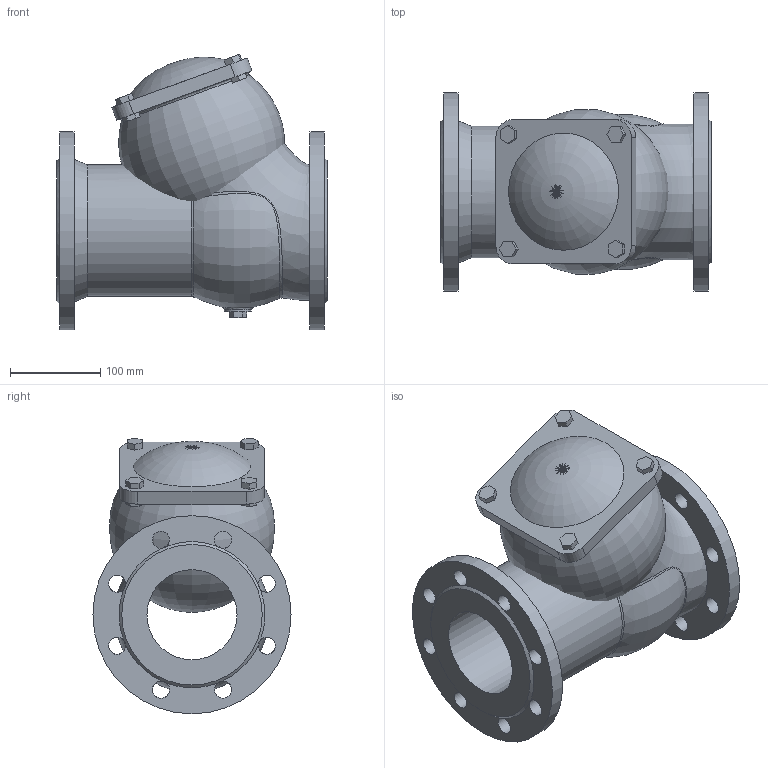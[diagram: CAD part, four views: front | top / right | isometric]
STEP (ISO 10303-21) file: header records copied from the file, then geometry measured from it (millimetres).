
FILE_DESCRIPTION(('STEP AP203'), '1');
FILE_NAME('抔黽鳧 012F.M DN100', '', ('UNSPECIFIED'), ('UNSPECIFIED'), 'ASCON STEP Converter 1.6', 'ASCON Math Kernel', '');
FILE_SCHEMA(('CONFIG_CONTROL_DESIGN'));
Length unit declared in the file: millimetre
Products named in the file (1): Клапан 012F.M DN100
Bounding box: 300 x 220 x 306 mm (x, y, z)
Volume: 2648723.7 mm3; surface area: 532630.4 mm2
Topology: 1 solids, 2 shells, 154 faces, 407 edges, 251 vertices
Faces by surface type: plane 102, cylinder 39, bspline 7, cone 3, torus 3
Full cylindrical faces by diameter (mm): 19 x16, 30 x1, 100 x1, 146 x1, 220 x2
Entity records: 10184 total; most frequent: CARTESIAN_POINT 5178, DIRECTION 765, ORIENTED_EDGE 746, EDGE_CURVE 376, AXIS2_PLACEMENT_3D 283, VERTEX_POINT 249, EDGE_LOOP 219, LINE 199
